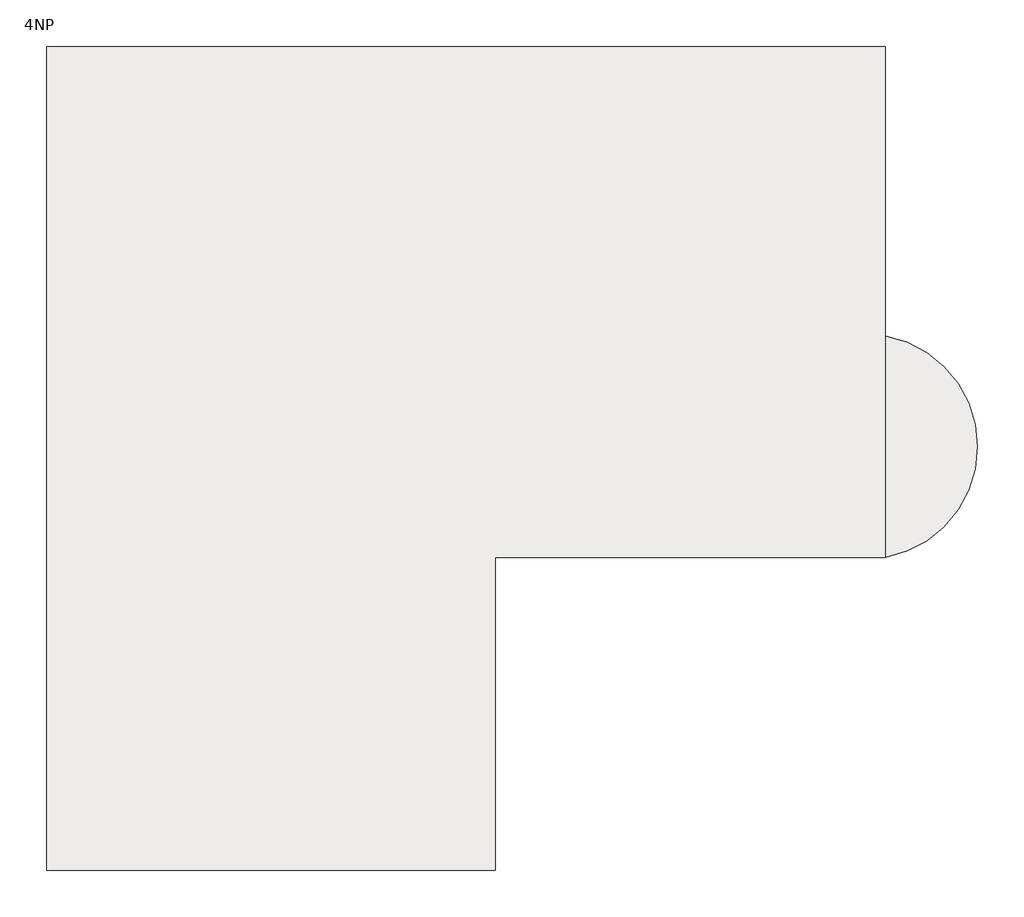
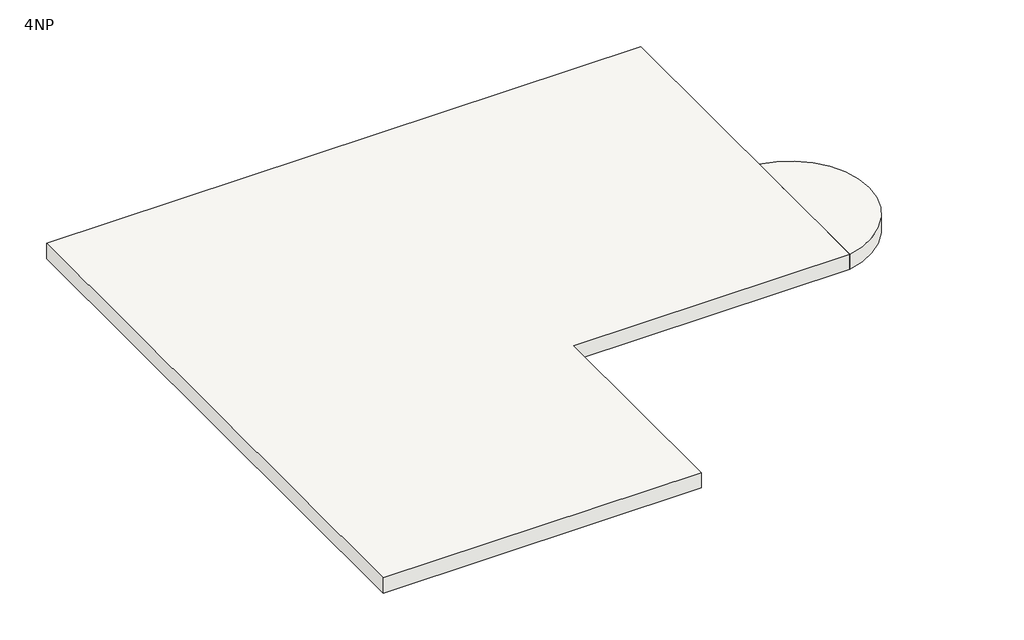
# One storey: 2 roofs.
"""IFC4 building model written with IfcOpenShell, lengths in millimetres."""

from ifc_helpers import new_model, si_unit, point, frame, frame_2d, origin, place, context, project, spatial, polyline, circle_curve, trimmed, segment, composite_curve, outline, extrude, element, save

model = new_model("IFC4")

# Units and contexts
model_context = context("Model", 3, world=origin())
ifc_project = project(units=[si_unit("LENGTHUNIT", "METRE", prefix="MILLI")], contexts=[model_context])

# Site, building, storey
site = spatial("IfcSite", under=ifc_project)
building = spatial("IfcBuilding", under=site)
storey = spatial("IfcBuildingStorey", under=building, Name="4NP", Elevation=12000.0)

# Roofs
placement = place(None, origin())
element("IfcRoof", 1, ObjectType="Generic - 400mm", at=placement, inside=storey, context=model_context, shape_type="SweptSolid", body=[
    extrude(outline(polyline([(-7530.3077176, 10061.6003657), (7219.6922824, 10061.6003657), (7219.6922824, 1074.8026806), (357.3775179, 1074.8026806), (357.3775179, -4425.1973194), (-7530.3077176, -4425.1973194), (-7530.3077176, 10061.6003657)])), frame((0.0, 0.0, 12000.0), z_axis=(0.0, 0.0, 1.0), x_axis=(1.0, 0.0, 0.0)), (0.0, 0.0, 1.0), 400.0),
])
element("IfcRoof", 2, ObjectType="Generic - 400mm", at=placement, inside=storey, context=model_context, shape_type="SweptSolid", body=[
    extrude(outline(composite_curve([segment(polyline([(7219.6922824, 1077.2671983), (7219.6922824, 4970.0923479)]), True, "CONTINUOUS"), segment(trimmed(circle_curve(frame_2d((6856.5420536, 3023.6797731)), 1980.0), [point((7219.6922824, 4970.0923479))], [point((7219.6922824, 1077.2671983))], False, "CARTESIAN"), True, "CONTINUOUS")], self_intersect=False)), frame((0.0, 0.0, 12000.0), z_axis=(0.0, 0.0, 1.0), x_axis=(1.0, 0.0, 0.0)), (0.0, 0.0, 1.0), 400.0),
])

save(model, "model.ifc")
